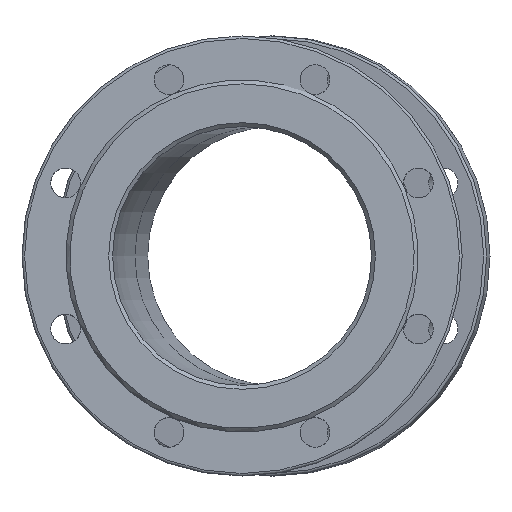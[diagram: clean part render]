
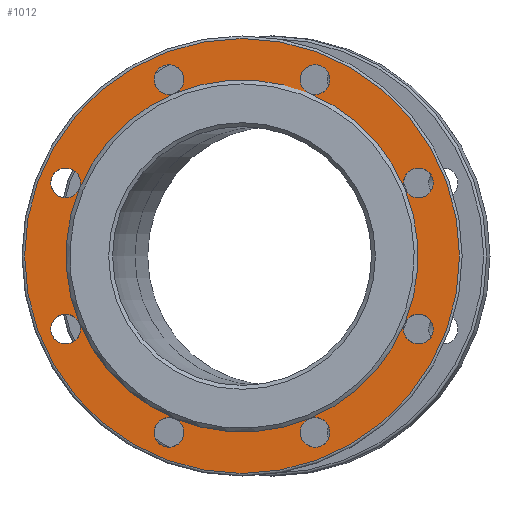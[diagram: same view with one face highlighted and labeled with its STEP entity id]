
A CAD part, left-side view. The second image highlights one B-rep face of the part: STEP entity #1012.
In plain terms, the highlighted planar face has unit normal (-1, 0, 0).
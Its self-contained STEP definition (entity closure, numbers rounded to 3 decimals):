
#14 = CARTESIAN_POINT ( 'NONE',  ( 3., 52.045, -125.648 ) ) ;
#17 = ORIENTED_EDGE ( 'NONE', *, *, #703, .F. ) ;
#18 = EDGE_CURVE ( 'NONE', #1361, #372, #353, .T. ) ;
#30 = CARTESIAN_POINT ( 'NONE',  ( 3., -136.272, -56.446 ) ) ;
#48 = CIRCLE ( 'NONE', #1093, 136. ) ;
#64 = EDGE_CURVE ( 'NONE', #1672, #395, #447, .T. ) ;
#128 = DIRECTION ( 'NONE',  ( 0., 0., 1. ) ) ;
#143 = AXIS2_PLACEMENT_3D ( 'NONE', #2683, #1641, #1027 ) ;
#144 = FACE_BOUND ( 'NONE', #1124, .T. ) ;
#145 = DIRECTION ( 'NONE',  ( -1., 0., 0. ) ) ;
#147 = AXIS2_PLACEMENT_3D ( 'NONE', #1157, #2339, #128 ) ;
#158 = CARTESIAN_POINT ( 'NONE',  ( 3., 52.045, 125.648 ) ) ;
#174 = CARTESIAN_POINT ( 'NONE',  ( 3., 0., 0. ) ) ;
#175 = VERTEX_POINT ( 'NONE', #1178 ) ;
#180 = EDGE_CURVE ( 'NONE', #175, #1361, #374, .T. ) ;
#202 = AXIS2_PLACEMENT_3D ( 'NONE', #1325, #2166, #2328 ) ;
#248 = CIRCLE ( 'NONE', #1517, 11.5 ) ;
#268 = AXIS2_PLACEMENT_3D ( 'NONE', #1866, #2236, #1051 ) ;
#287 = EDGE_CURVE ( 'NONE', #1741, #1672, #1950, .T. ) ;
#326 = AXIS2_PLACEMENT_3D ( 'NONE', #1796, #1215, #1828 ) ;
#335 = CARTESIAN_POINT ( 'NONE',  ( 3., 0., 0. ) ) ;
#336 = ORIENTED_EDGE ( 'NONE', *, *, #576, .F. ) ;
#353 = CIRCLE ( 'NONE', #1413, 136. ) ;
#372 = VERTEX_POINT ( 'NONE', #158 ) ;
#374 = CIRCLE ( 'NONE', #2604, 136. ) ;
#395 = VERTEX_POINT ( 'NONE', #14 ) ;
#408 = ORIENTED_EDGE ( 'NONE', *, *, #459, .F. ) ;
#415 = CARTESIAN_POINT ( 'NONE',  ( 3., 56.446, 136.272 ) ) ;
#421 = FACE_OUTER_BOUND ( 'NONE', #1150, .T. ) ;
#447 = CIRCLE ( 'NONE', #268, 136. ) ;
#459 = EDGE_CURVE ( 'NONE', #1335, #1897, #2326, .T. ) ;
#465 = ORIENTED_EDGE ( 'NONE', *, *, #839, .F. ) ;
#499 = CIRCLE ( 'NONE', #1549, 11.5 ) ;
#576 = EDGE_CURVE ( 'NONE', #1897, #1897, #248, .T. ) ;
#577 = DIRECTION ( 'NONE',  ( -1., 0., 0. ) ) ;
#600 = ORIENTED_EDGE ( 'NONE', *, *, #2043, .F. ) ;
#605 = ORIENTED_EDGE ( 'NONE', *, *, #64, .F. ) ;
#613 = ORIENTED_EDGE ( 'NONE', *, *, #18, .F. ) ;
#618 = CARTESIAN_POINT ( 'NONE',  ( 3., -136.272, 56.446 ) ) ;
#632 = DIRECTION ( 'NONE',  ( -1., 0., 0. ) ) ;
#663 = DIRECTION ( 'NONE',  ( 0., 0., 1. ) ) ;
#703 = EDGE_CURVE ( 'NONE', #175, #175, #1913, .T. ) ;
#775 = CARTESIAN_POINT ( 'NONE',  ( 3., 136.272, 56.446 ) ) ;
#786 = DIRECTION ( 'NONE',  ( -1., 0., 0. ) ) ;
#832 = CARTESIAN_POINT ( 'NONE',  ( 3., 0., 0. ) ) ;
#839 = EDGE_CURVE ( 'NONE', #1335, #1335, #2561, .T. ) ;
#858 = CIRCLE ( 'NONE', #2280, 136. ) ;
#873 = DIRECTION ( 'NONE',  ( -1., 0., 0. ) ) ;
#880 = EDGE_CURVE ( 'NONE', #1672, #1672, #2660, .T. ) ;
#911 = DIRECTION ( 'NONE',  ( -1., 0., 0. ) ) ;
#928 = AXIS2_PLACEMENT_3D ( 'NONE', #775, #145, #1558 ) ;
#938 = ORIENTED_EDGE ( 'NONE', *, *, #2098, .F. ) ;
#957 = DIRECTION ( 'NONE',  ( 0., 0., 1. ) ) ;
#962 = EDGE_CURVE ( 'NONE', #1361, #1361, #2413, .T. ) ;
#983 = ORIENTED_EDGE ( 'NONE', *, *, #2340, .F. ) ;
#995 = PLANE ( 'NONE',  #326 ) ;
#1012 = ADVANCED_FACE ( 'NONE', ( #421, #144 ), #995, .F. ) ;
#1027 = DIRECTION ( 'NONE',  ( 0., 0., 1. ) ) ;
#1034 = DIRECTION ( 'NONE',  ( -1., 0., 0. ) ) ;
#1047 = CARTESIAN_POINT ( 'NONE',  ( 3., 0., 0. ) ) ;
#1051 = DIRECTION ( 'NONE',  ( 0., 0., 1. ) ) ;
#1058 = CARTESIAN_POINT ( 'NONE',  ( 3., -52.045, 125.648 ) ) ;
#1093 = AXIS2_PLACEMENT_3D ( 'NONE', #1047, #632, #1861 ) ;
#1124 = EDGE_LOOP ( 'NONE', ( #613, #1451, #1875, #17, #1404, #336, #408, #465, #938, #600, #605, #2480, #2083, #2153, #1156, #983 ) ) ;
#1129 = CIRCLE ( 'NONE', #1507, 11.5 ) ;
#1149 = DIRECTION ( 'NONE',  ( -1., 0., 0. ) ) ;
#1150 = EDGE_LOOP ( 'NONE', ( #1928 ) ) ;
#1154 = CARTESIAN_POINT ( 'NONE',  ( 3., 0., 0. ) ) ;
#1156 = ORIENTED_EDGE ( 'NONE', *, *, #1781, .F. ) ;
#1157 = CARTESIAN_POINT ( 'NONE',  ( 3., 0., 0. ) ) ;
#1173 = DIRECTION ( 'NONE',  ( 0., 0., -1. ) ) ;
#1174 = DIRECTION ( 'NONE',  ( 0., 0., -1. ) ) ;
#1178 = CARTESIAN_POINT ( 'NONE',  ( 3., -125.648, 52.045 ) ) ;
#1215 = DIRECTION ( 'NONE',  ( 1., 0., 0. ) ) ;
#1256 = CIRCLE ( 'NONE', #1853, 136. ) ;
#1325 = CARTESIAN_POINT ( 'NONE',  ( 3., 136.272, -56.446 ) ) ;
#1335 = VERTEX_POINT ( 'NONE', #2469 ) ;
#1361 = VERTEX_POINT ( 'NONE', #1058 ) ;
#1365 = DIRECTION ( 'NONE',  ( -1., 0., 0. ) ) ;
#1368 = DIRECTION ( 'NONE',  ( 0., 0., -1. ) ) ;
#1395 = CARTESIAN_POINT ( 'NONE',  ( 3., 56.446, -136.272 ) ) ;
#1399 = CARTESIAN_POINT ( 'NONE',  ( 3., 0., 0. ) ) ;
#1404 = ORIENTED_EDGE ( 'NONE', *, *, #2003, .F. ) ;
#1413 = AXIS2_PLACEMENT_3D ( 'NONE', #832, #873, #663 ) ;
#1415 = VERTEX_POINT ( 'NONE', #1834 ) ;
#1417 = DIRECTION ( 'NONE',  ( -1., 0., 0. ) ) ;
#1440 = AXIS2_PLACEMENT_3D ( 'NONE', #618, #577, #1368 ) ;
#1451 = ORIENTED_EDGE ( 'NONE', *, *, #962, .F. ) ;
#1498 = DIRECTION ( 'NONE',  ( 0., 0., -1. ) ) ;
#1504 = CIRCLE ( 'NONE', #928, 11.5 ) ;
#1507 = AXIS2_PLACEMENT_3D ( 'NONE', #1395, #786, #1174 ) ;
#1517 = AXIS2_PLACEMENT_3D ( 'NONE', #30, #1883, #1498 ) ;
#1522 = DIRECTION ( 'NONE',  ( 0., 0., -1. ) ) ;
#1549 = AXIS2_PLACEMENT_3D ( 'NONE', #415, #1417, #2629 ) ;
#1558 = DIRECTION ( 'NONE',  ( 0., 0., -1. ) ) ;
#1616 = CARTESIAN_POINT ( 'NONE',  ( 3., -56.446, 136.272 ) ) ;
#1617 = DIRECTION ( 'NONE',  ( -1., 0., 0. ) ) ;
#1641 = DIRECTION ( 'NONE',  ( -1., 0., 0. ) ) ;
#1672 = VERTEX_POINT ( 'NONE', #1787 ) ;
#1688 = AXIS2_PLACEMENT_3D ( 'NONE', #1154, #2555, #1522 ) ;
#1741 = VERTEX_POINT ( 'NONE', #2483 ) ;
#1781 = EDGE_CURVE ( 'NONE', #372, #1741, #48, .T. ) ;
#1787 = CARTESIAN_POINT ( 'NONE',  ( 3., 125.648, -52.045 ) ) ;
#1796 = CARTESIAN_POINT ( 'NONE',  ( 3., 136., 0. ) ) ;
#1828 = DIRECTION ( 'NONE',  ( 0., 0., -1. ) ) ;
#1833 = DIRECTION ( 'NONE',  ( 0., 0., 1. ) ) ;
#1834 = CARTESIAN_POINT ( 'NONE',  ( 3., 0., -168. ) ) ;
#1853 = AXIS2_PLACEMENT_3D ( 'NONE', #174, #1617, #2371 ) ;
#1861 = DIRECTION ( 'NONE',  ( 0., 0., 1. ) ) ;
#1866 = CARTESIAN_POINT ( 'NONE',  ( 3., 0., 0. ) ) ;
#1875 = ORIENTED_EDGE ( 'NONE', *, *, #180, .F. ) ;
#1883 = DIRECTION ( 'NONE',  ( -1., 0., 0. ) ) ;
#1897 = VERTEX_POINT ( 'NONE', #2120 ) ;
#1913 = CIRCLE ( 'NONE', #1440, 11.5 ) ;
#1928 = ORIENTED_EDGE ( 'NONE', *, *, #2289, .T. ) ;
#1950 = CIRCLE ( 'NONE', #147, 136. ) ;
#1960 = DIRECTION ( 'NONE',  ( 0., 0., -1. ) ) ;
#1968 = EDGE_CURVE ( 'NONE', #1741, #1741, #1504, .T. ) ;
#2003 = EDGE_CURVE ( 'NONE', #1897, #175, #1256, .T. ) ;
#2043 = EDGE_CURVE ( 'NONE', #395, #395, #1129, .T. ) ;
#2083 = ORIENTED_EDGE ( 'NONE', *, *, #287, .F. ) ;
#2098 = EDGE_CURVE ( 'NONE', #395, #1335, #858, .T. ) ;
#2120 = CARTESIAN_POINT ( 'NONE',  ( 3., -125.648, -52.045 ) ) ;
#2153 = ORIENTED_EDGE ( 'NONE', *, *, #1968, .F. ) ;
#2166 = DIRECTION ( 'NONE',  ( -1., 0., 0. ) ) ;
#2236 = DIRECTION ( 'NONE',  ( -1., 0., 0. ) ) ;
#2280 = AXIS2_PLACEMENT_3D ( 'NONE', #335, #1149, #957 ) ;
#2289 = EDGE_CURVE ( 'NONE', #1415, #1415, #2316, .T. ) ;
#2316 = CIRCLE ( 'NONE', #1688, 168. ) ;
#2326 = CIRCLE ( 'NONE', #143, 136. ) ;
#2328 = DIRECTION ( 'NONE',  ( 0., 0., -1. ) ) ;
#2339 = DIRECTION ( 'NONE',  ( -1., 0., 0. ) ) ;
#2340 = EDGE_CURVE ( 'NONE', #372, #372, #499, .T. ) ;
#2365 = AXIS2_PLACEMENT_3D ( 'NONE', #1616, #1365, #1173 ) ;
#2371 = DIRECTION ( 'NONE',  ( 0., 0., 1. ) ) ;
#2413 = CIRCLE ( 'NONE', #2365, 11.5 ) ;
#2469 = CARTESIAN_POINT ( 'NONE',  ( 3., -52.045, -125.648 ) ) ;
#2480 = ORIENTED_EDGE ( 'NONE', *, *, #880, .F. ) ;
#2483 = CARTESIAN_POINT ( 'NONE',  ( 3., 125.648, 52.045 ) ) ;
#2524 = AXIS2_PLACEMENT_3D ( 'NONE', #2586, #911, #1960 ) ;
#2555 = DIRECTION ( 'NONE',  ( -1., 0., 0. ) ) ;
#2561 = CIRCLE ( 'NONE', #2524, 11.5 ) ;
#2586 = CARTESIAN_POINT ( 'NONE',  ( 3., -56.446, -136.272 ) ) ;
#2604 = AXIS2_PLACEMENT_3D ( 'NONE', #1399, #1034, #1833 ) ;
#2629 = DIRECTION ( 'NONE',  ( 0., 0., -1. ) ) ;
#2660 = CIRCLE ( 'NONE', #202, 11.5 ) ;
#2683 = CARTESIAN_POINT ( 'NONE',  ( 3., 0., 0. ) ) ;
